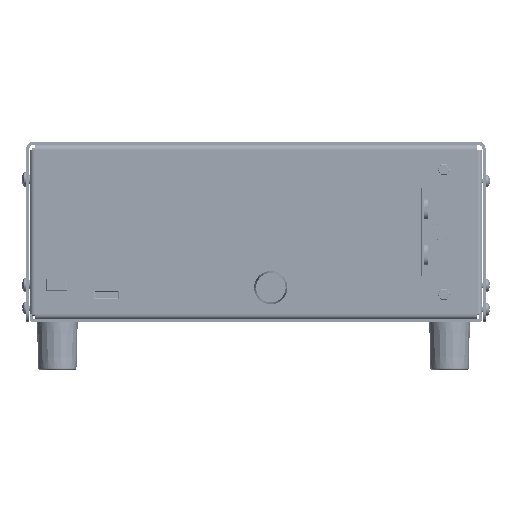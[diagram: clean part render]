
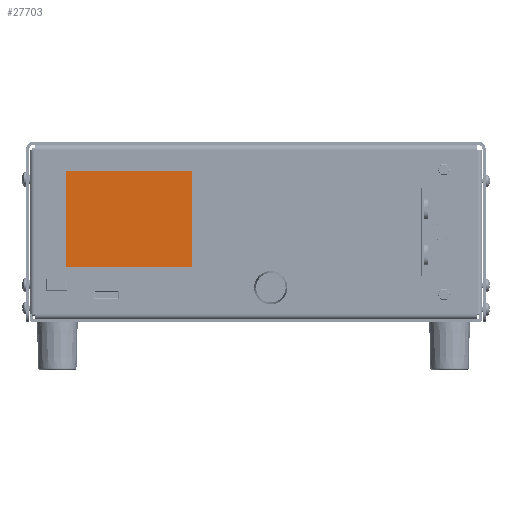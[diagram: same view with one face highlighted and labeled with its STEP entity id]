
A CAD part, front view. The second image highlights one B-rep face of the part: STEP entity #27703.
In plain terms, the highlighted planar face has unit normal (0, -1, 0) as drawn and (0, 0, 1) by its records, which use the part's own axes.
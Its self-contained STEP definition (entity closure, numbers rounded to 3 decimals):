
#27703=ADVANCED_FACE('',(#59022),#59023,.T.);
#59022=FACE_OUTER_BOUND('',#112818,.T.);
#59023=PLANE('',#112819);
#112818=EDGE_LOOP('',(#196550,#196551,#196552,#196553));
#112819=AXIS2_PLACEMENT_3D('',#196554,#196555,#196556);
#196550=ORIENTED_EDGE('',*,*,#255392,.F.);
#196551=ORIENTED_EDGE('',*,*,#255405,.F.);
#196552=ORIENTED_EDGE('',*,*,#255401,.F.);
#196553=ORIENTED_EDGE('',*,*,#255397,.F.);
#196554=CARTESIAN_POINT('',(34.79,28.78,-5.5));
#196555=DIRECTION('',(-0.0,0.0,1.0));
#196556=DIRECTION('',(1.0,0.0,0.0));
#255392=EDGE_CURVE('',#310718,#310719,#310720,.T.);
#255397=EDGE_CURVE('',#310719,#310727,#310728,.T.);
#255401=EDGE_CURVE('',#310727,#310733,#310734,.T.);
#255405=EDGE_CURVE('',#310733,#310718,#310739,.T.);
#310718=VERTEX_POINT('',#394485);
#310719=VERTEX_POINT('',#394486);
#310720=LINE('',#394487,#394488);
#310727=VERTEX_POINT('',#394498);
#310728=LINE('',#394499,#394500);
#310733=VERTEX_POINT('',#394507);
#310734=LINE('',#394508,#394509);
#310739=LINE('',#394516,#394517);
#394485=CARTESIAN_POINT('',(4.49,51.88,-5.5));
#394486=CARTESIAN_POINT('',(65.09,51.88,-5.5));
#394487=CARTESIAN_POINT('',(4.49,51.88,-5.5));
#394488=VECTOR('',#448414,1.0);
#394498=CARTESIAN_POINT('',(65.09,5.68,-5.5));
#394499=CARTESIAN_POINT('',(65.09,51.88,-5.5));
#394500=VECTOR('',#448418,1.0);
#394507=CARTESIAN_POINT('',(4.49,5.68,-5.5));
#394508=CARTESIAN_POINT('',(65.09,5.68,-5.5));
#394509=VECTOR('',#448421,1.0);
#394516=CARTESIAN_POINT('',(4.49,5.68,-5.5));
#394517=VECTOR('',#448424,1.0);
#448414=DIRECTION('',(1.0,0.0,0.0));
#448418=DIRECTION('',(0.0,-1.0,0.0));
#448421=DIRECTION('',(-1.0,0.0,0.0));
#448424=DIRECTION('',(0.0,1.0,0.0));
